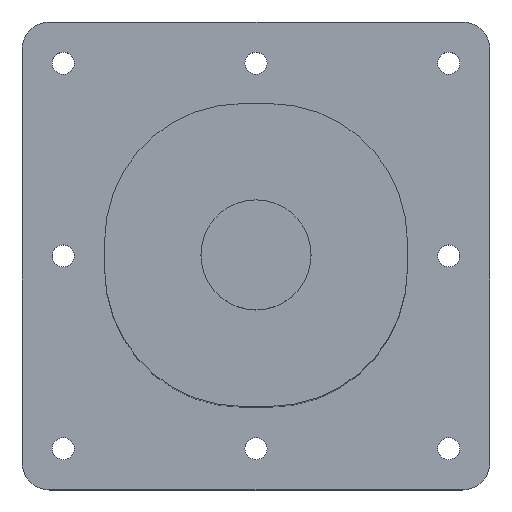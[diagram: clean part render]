
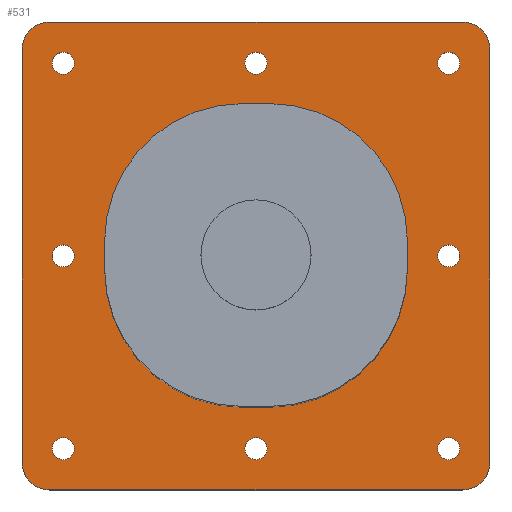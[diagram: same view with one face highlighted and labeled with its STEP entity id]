
A CAD part, top view. The second image highlights one B-rep face of the part: STEP entity #531.
In plain terms, the highlighted planar face has unit normal (0, 0, 1).
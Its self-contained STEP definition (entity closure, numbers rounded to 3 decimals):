
#15=FACE_BOUND('',#77,.T.);
#16=FACE_BOUND('',#78,.T.);
#17=FACE_BOUND('',#79,.T.);
#18=FACE_BOUND('',#80,.T.);
#19=FACE_BOUND('',#81,.T.);
#20=FACE_BOUND('',#82,.T.);
#21=FACE_BOUND('',#83,.T.);
#22=FACE_BOUND('',#84,.T.);
#23=FACE_BOUND('',#85,.T.);
#34=PLANE('',#576);
#47=FACE_OUTER_BOUND('',#76,.T.);
#76=EDGE_LOOP('',(#370,#371,#372,#373,#374,#375,#376,#377));
#77=EDGE_LOOP('',(#378));
#78=EDGE_LOOP('',(#379));
#79=EDGE_LOOP('',(#380));
#80=EDGE_LOOP('',(#381));
#81=EDGE_LOOP('',(#382));
#82=EDGE_LOOP('',(#383));
#83=EDGE_LOOP('',(#384));
#84=EDGE_LOOP('',(#385));
#85=EDGE_LOOP('',(#386,#387,#388,#389,#390,#391,#392,#393));
#123=LINE('',#816,#164);
#126=LINE('',#822,#167);
#127=LINE('',#826,#168);
#128=LINE('',#830,#169);
#129=LINE('',#850,#170);
#130=LINE('',#854,#171);
#131=LINE('',#858,#172);
#132=LINE('',#862,#173);
#164=VECTOR('',#647,10.);
#167=VECTOR('',#652,10.);
#168=VECTOR('',#655,10.);
#169=VECTOR('',#658,10.);
#170=VECTOR('',#677,10.);
#171=VECTOR('',#680,10.);
#172=VECTOR('',#683,10.);
#173=VECTOR('',#686,10.);
#203=CIRCLE('',#573,10.);
#205=CIRCLE('',#577,10.);
#206=CIRCLE('',#578,10.);
#207=CIRCLE('',#579,10.);
#208=CIRCLE('',#580,4.);
#209=CIRCLE('',#581,4.);
#210=CIRCLE('',#582,4.);
#211=CIRCLE('',#583,4.);
#212=CIRCLE('',#584,4.);
#213=CIRCLE('',#585,4.);
#214=CIRCLE('',#586,4.);
#215=CIRCLE('',#587,4.);
#216=CIRCLE('',#588,50.);
#217=CIRCLE('',#589,50.);
#218=CIRCLE('',#590,50.);
#219=CIRCLE('',#591,50.);
#237=VERTEX_POINT('',#806);
#238=VERTEX_POINT('',#807);
#241=VERTEX_POINT('',#815);
#243=VERTEX_POINT('',#821);
#244=VERTEX_POINT('',#823);
#245=VERTEX_POINT('',#825);
#246=VERTEX_POINT('',#827);
#247=VERTEX_POINT('',#829);
#248=VERTEX_POINT('',#832);
#249=VERTEX_POINT('',#834);
#250=VERTEX_POINT('',#836);
#251=VERTEX_POINT('',#838);
#252=VERTEX_POINT('',#840);
#253=VERTEX_POINT('',#842);
#254=VERTEX_POINT('',#844);
#255=VERTEX_POINT('',#846);
#256=VERTEX_POINT('',#848);
#257=VERTEX_POINT('',#849);
#258=VERTEX_POINT('',#851);
#259=VERTEX_POINT('',#853);
#260=VERTEX_POINT('',#855);
#261=VERTEX_POINT('',#857);
#262=VERTEX_POINT('',#859);
#263=VERTEX_POINT('',#861);
#287=EDGE_CURVE('',#237,#238,#203,.T.);
#291=EDGE_CURVE('',#241,#238,#123,.T.);
#294=EDGE_CURVE('',#237,#243,#126,.T.);
#295=EDGE_CURVE('',#244,#243,#205,.T.);
#296=EDGE_CURVE('',#244,#245,#127,.T.);
#297=EDGE_CURVE('',#246,#245,#206,.T.);
#298=EDGE_CURVE('',#246,#247,#128,.T.);
#299=EDGE_CURVE('',#241,#247,#207,.T.);
#300=EDGE_CURVE('',#248,#248,#208,.T.);
#301=EDGE_CURVE('',#249,#249,#209,.T.);
#302=EDGE_CURVE('',#250,#250,#210,.T.);
#303=EDGE_CURVE('',#251,#251,#211,.T.);
#304=EDGE_CURVE('',#252,#252,#212,.T.);
#305=EDGE_CURVE('',#253,#253,#213,.T.);
#306=EDGE_CURVE('',#254,#254,#214,.T.);
#307=EDGE_CURVE('',#255,#255,#215,.T.);
#308=EDGE_CURVE('',#256,#257,#129,.T.);
#309=EDGE_CURVE('',#258,#256,#216,.T.);
#310=EDGE_CURVE('',#259,#258,#130,.T.);
#311=EDGE_CURVE('',#260,#259,#217,.T.);
#312=EDGE_CURVE('',#261,#260,#131,.T.);
#313=EDGE_CURVE('',#262,#261,#218,.T.);
#314=EDGE_CURVE('',#263,#262,#132,.T.);
#315=EDGE_CURVE('',#257,#263,#219,.T.);
#370=ORIENTED_EDGE('',*,*,#287,.F.);
#371=ORIENTED_EDGE('',*,*,#294,.T.);
#372=ORIENTED_EDGE('',*,*,#295,.F.);
#373=ORIENTED_EDGE('',*,*,#296,.T.);
#374=ORIENTED_EDGE('',*,*,#297,.F.);
#375=ORIENTED_EDGE('',*,*,#298,.T.);
#376=ORIENTED_EDGE('',*,*,#299,.F.);
#377=ORIENTED_EDGE('',*,*,#291,.T.);
#378=ORIENTED_EDGE('',*,*,#300,.T.);
#379=ORIENTED_EDGE('',*,*,#301,.T.);
#380=ORIENTED_EDGE('',*,*,#302,.T.);
#381=ORIENTED_EDGE('',*,*,#303,.T.);
#382=ORIENTED_EDGE('',*,*,#304,.T.);
#383=ORIENTED_EDGE('',*,*,#305,.T.);
#384=ORIENTED_EDGE('',*,*,#306,.T.);
#385=ORIENTED_EDGE('',*,*,#307,.T.);
#386=ORIENTED_EDGE('',*,*,#308,.F.);
#387=ORIENTED_EDGE('',*,*,#309,.F.);
#388=ORIENTED_EDGE('',*,*,#310,.F.);
#389=ORIENTED_EDGE('',*,*,#311,.F.);
#390=ORIENTED_EDGE('',*,*,#312,.F.);
#391=ORIENTED_EDGE('',*,*,#313,.F.);
#392=ORIENTED_EDGE('',*,*,#314,.F.);
#393=ORIENTED_EDGE('',*,*,#315,.F.);
#531=ADVANCED_FACE('',(#47,#15,#16,#17,#18,#19,#20,#21,#22,#23),#34,.F.);
#573=AXIS2_PLACEMENT_3D('',#808,#639,#640);
#576=AXIS2_PLACEMENT_3D('',#820,#650,#651);
#577=AXIS2_PLACEMENT_3D('',#824,#653,#654);
#578=AXIS2_PLACEMENT_3D('',#828,#656,#657);
#579=AXIS2_PLACEMENT_3D('',#831,#659,#660);
#580=AXIS2_PLACEMENT_3D('',#833,#661,#662);
#581=AXIS2_PLACEMENT_3D('',#835,#663,#664);
#582=AXIS2_PLACEMENT_3D('',#837,#665,#666);
#583=AXIS2_PLACEMENT_3D('',#839,#667,#668);
#584=AXIS2_PLACEMENT_3D('',#841,#669,#670);
#585=AXIS2_PLACEMENT_3D('',#843,#671,#672);
#586=AXIS2_PLACEMENT_3D('',#845,#673,#674);
#587=AXIS2_PLACEMENT_3D('',#847,#675,#676);
#588=AXIS2_PLACEMENT_3D('',#852,#678,#679);
#589=AXIS2_PLACEMENT_3D('',#856,#681,#682);
#590=AXIS2_PLACEMENT_3D('',#860,#684,#685);
#591=AXIS2_PLACEMENT_3D('',#863,#687,#688);
#639=DIRECTION('center_axis',(0.,0.,-1.));
#640=DIRECTION('ref_axis',(-0.707,0.707,0.));
#647=DIRECTION('',(-1.,0.,0.));
#650=DIRECTION('center_axis',(0.,0.,-1.));
#651=DIRECTION('ref_axis',(0.866,0.5,0.));
#652=DIRECTION('',(0.,-1.,0.));
#653=DIRECTION('center_axis',(0.,0.,-1.));
#654=DIRECTION('ref_axis',(-0.707,-0.707,0.));
#655=DIRECTION('',(1.,0.,0.));
#656=DIRECTION('center_axis',(0.,0.,-1.));
#657=DIRECTION('ref_axis',(0.707,-0.707,0.));
#658=DIRECTION('',(0.,1.,0.));
#659=DIRECTION('center_axis',(0.,0.,-1.));
#660=DIRECTION('ref_axis',(0.707,0.707,0.));
#661=DIRECTION('center_axis',(0.,0.,-1.));
#662=DIRECTION('ref_axis',(0.866,0.5,0.));
#663=DIRECTION('center_axis',(0.,0.,-1.));
#664=DIRECTION('ref_axis',(0.866,0.5,0.));
#665=DIRECTION('center_axis',(0.,0.,-1.));
#666=DIRECTION('ref_axis',(0.866,0.5,0.));
#667=DIRECTION('center_axis',(0.,0.,-1.));
#668=DIRECTION('ref_axis',(0.866,0.5,0.));
#669=DIRECTION('center_axis',(0.,0.,-1.));
#670=DIRECTION('ref_axis',(0.866,0.5,0.));
#671=DIRECTION('center_axis',(0.,0.,-1.));
#672=DIRECTION('ref_axis',(0.866,0.5,0.));
#673=DIRECTION('center_axis',(0.,0.,-1.));
#674=DIRECTION('ref_axis',(0.866,0.5,0.));
#675=DIRECTION('center_axis',(0.,0.,-1.));
#676=DIRECTION('ref_axis',(0.866,0.5,0.));
#677=DIRECTION('',(0.,-1.,0.));
#678=DIRECTION('center_axis',(0.,0.,1.));
#679=DIRECTION('ref_axis',(-0.707,0.707,0.));
#680=DIRECTION('',(-1.,0.,0.));
#681=DIRECTION('center_axis',(0.,0.,1.));
#682=DIRECTION('ref_axis',(0.707,0.707,0.));
#683=DIRECTION('',(0.,1.,0.));
#684=DIRECTION('center_axis',(0.,0.,1.));
#685=DIRECTION('ref_axis',(0.707,-0.707,0.));
#686=DIRECTION('',(1.,0.,0.));
#687=DIRECTION('center_axis',(0.,0.,1.));
#688=DIRECTION('ref_axis',(-0.707,-0.707,0.));
#806=CARTESIAN_POINT('',(-85.,75.,20.));
#807=CARTESIAN_POINT('',(-75.,85.,20.));
#808=CARTESIAN_POINT('Origin',(-75.,75.,20.));
#815=CARTESIAN_POINT('',(75.,85.,20.));
#816=CARTESIAN_POINT('',(-85.,85.,20.));
#820=CARTESIAN_POINT('Origin',(0.,0.,
20.));
#821=CARTESIAN_POINT('',(-85.,-75.,20.));
#822=CARTESIAN_POINT('',(-85.,-85.,20.));
#823=CARTESIAN_POINT('',(-75.,-85.,20.));
#824=CARTESIAN_POINT('Origin',(-75.,-75.,20.));
#825=CARTESIAN_POINT('',(75.,-85.,20.));
#826=CARTESIAN_POINT('',(85.,-85.,20.));
#827=CARTESIAN_POINT('',(85.,-75.,20.));
#828=CARTESIAN_POINT('Origin',(75.,-75.,20.));
#829=CARTESIAN_POINT('',(85.,75.,20.));
#830=CARTESIAN_POINT('',(85.,85.,20.));
#831=CARTESIAN_POINT('Origin',(75.,75.,20.));
#832=CARTESIAN_POINT('',(66.536,-2.,20.));
#833=CARTESIAN_POINT('Origin',(70.,0.,20.));
#834=CARTESIAN_POINT('',(66.536,68.,20.));
#835=CARTESIAN_POINT('Origin',(70.,70.,20.));
#836=CARTESIAN_POINT('',(-73.464,-2.,20.));
#837=CARTESIAN_POINT('Origin',(-70.,0.,20.));
#838=CARTESIAN_POINT('',(-73.464,68.,20.));
#839=CARTESIAN_POINT('Origin',(-70.,70.,20.));
#840=CARTESIAN_POINT('',(-3.464,68.,20.));
#841=CARTESIAN_POINT('Origin',(0.,70.,20.));
#842=CARTESIAN_POINT('',(66.536,-72.,20.));
#843=CARTESIAN_POINT('Origin',(70.,-70.,20.));
#844=CARTESIAN_POINT('',(-73.464,-72.,20.));
#845=CARTESIAN_POINT('Origin',(-70.,-70.,20.));
#846=CARTESIAN_POINT('',(-3.464,-72.,20.));
#847=CARTESIAN_POINT('Origin',(0.,-70.,20.));
#848=CARTESIAN_POINT('',(-55.,5.,20.));
#849=CARTESIAN_POINT('',(-55.,-5.,20.));
#850=CARTESIAN_POINT('',(-55.,-27.5,20.));
#851=CARTESIAN_POINT('',(-5.,55.,20.));
#852=CARTESIAN_POINT('Origin',(-5.,5.,20.));
#853=CARTESIAN_POINT('',(5.,55.,20.));
#854=CARTESIAN_POINT('',(-27.5,55.,20.));
#855=CARTESIAN_POINT('',(55.,5.,20.));
#856=CARTESIAN_POINT('Origin',(5.,5.,20.));
#857=CARTESIAN_POINT('',(55.,-5.,20.));
#858=CARTESIAN_POINT('',(55.,27.5,20.));
#859=CARTESIAN_POINT('',(5.,-55.,20.));
#860=CARTESIAN_POINT('Origin',(5.,-5.,20.));
#861=CARTESIAN_POINT('',(-5.,-55.,20.));
#862=CARTESIAN_POINT('',(27.5,-55.,20.));
#863=CARTESIAN_POINT('Origin',(-5.,-5.,20.));
